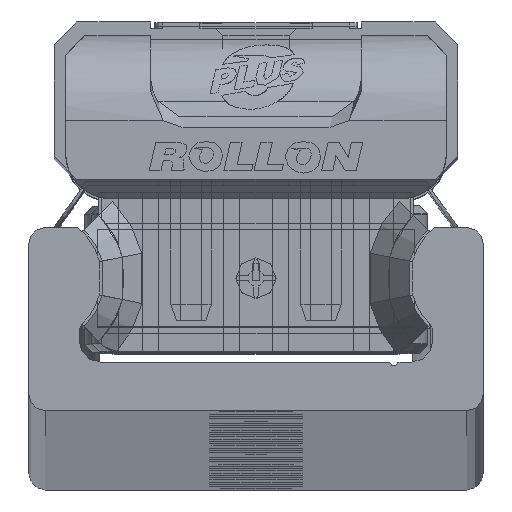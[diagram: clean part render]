
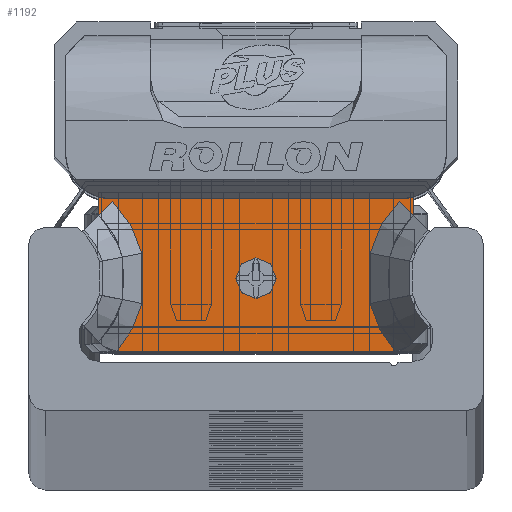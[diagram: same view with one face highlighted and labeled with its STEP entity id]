
A CAD part, top view. The second image highlights one B-rep face of the part: STEP entity #1192.
In plain terms, the highlighted planar face has unit normal (0, 0, 1) as drawn and (0, 0, -1) by its records, which use the part's own axes.
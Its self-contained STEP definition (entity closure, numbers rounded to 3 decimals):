
#1192 = ADVANCED_FACE( '', ( #2888, #2889 ), #2890, .F. );
#2888 = FACE_BOUND( '', #5312, .T. );
#2889 = FACE_OUTER_BOUND( '', #5313, .T. );
#2890 = PLANE( '', #5314 );
#5312 = EDGE_LOOP( '', ( #8734 ) );
#5313 = EDGE_LOOP( '', ( #8735, #8736, #8737, #8738, #8739, #8740, #8741, #8742, #8743, #8744, #8745, #8746, #8747, #8748 ) );
#5314 = AXIS2_PLACEMENT_3D( '', #8749, #8750, #8751 );
#8734 = ORIENTED_EDGE( '', *, *, #13364, .T. );
#8735 = ORIENTED_EDGE( '', *, *, #14055, .F. );
#8736 = ORIENTED_EDGE( '', *, *, #14056, .T. );
#8737 = ORIENTED_EDGE( '', *, *, #13781, .T. );
#8738 = ORIENTED_EDGE( '', *, *, #14057, .T. );
#8739 = ORIENTED_EDGE( '', *, *, #14058, .T. );
#8740 = ORIENTED_EDGE( '', *, *, #13165, .T. );
#8741 = ORIENTED_EDGE( '', *, *, #14059, .T. );
#8742 = ORIENTED_EDGE( '', *, *, #14060, .T. );
#8743 = ORIENTED_EDGE( '', *, *, #14061, .T. );
#8744 = ORIENTED_EDGE( '', *, *, #14062, .T. );
#8745 = ORIENTED_EDGE( '', *, *, #14063, .T. );
#8746 = ORIENTED_EDGE( '', *, *, #14064, .T. );
#8747 = ORIENTED_EDGE( '', *, *, #14065, .T. );
#8748 = ORIENTED_EDGE( '', *, *, #14066, .T. );
#8749 = CARTESIAN_POINT( '', ( 9.7, 4.89, -10.6 ) );
#8750 = DIRECTION( '', ( 0., 0., 1. ) );
#8751 = DIRECTION( '', ( 1., 0., 0. ) );
#13165 = EDGE_CURVE( '', #15471, #15469, #15472, .T. );
#13364 = EDGE_CURVE( '', #15821, #15821, #15822, .T. );
#13781 = EDGE_CURVE( '', #16544, #16548, #16550, .T. );
#14055 = EDGE_CURVE( '', #16999, #15499, #17000, .T. );
#14056 = EDGE_CURVE( '', #16999, #16544, #17001, .T. );
#14057 = EDGE_CURVE( '', #16548, #17002, #17003, .T. );
#14058 = EDGE_CURVE( '', #17002, #15471, #17004, .T. );
#14059 = EDGE_CURVE( '', #15469, #17005, #17006, .T. );
#14060 = EDGE_CURVE( '', #17005, #17007, #17008, .T. );
#14061 = EDGE_CURVE( '', #17007, #17009, #17010, .T. );
#14062 = EDGE_CURVE( '', #17009, #16485, #17011, .T. );
#14063 = EDGE_CURVE( '', #16485, #17012, #17013, .T. );
#14064 = EDGE_CURVE( '', #17012, #17014, #17015, .T. );
#14065 = EDGE_CURVE( '', #17014, #17016, #17017, .T. );
#14066 = EDGE_CURVE( '', #17016, #15499, #17018, .T. );
#15469 = VERTEX_POINT( '', #18903 );
#15471 = VERTEX_POINT( '', #18906 );
#15472 = LINE( '', #18907, #18908 );
#15499 = VERTEX_POINT( '', #18942 );
#15821 = VERTEX_POINT( '', #19338 );
#15822 = CIRCLE( '', #19339, 1.25 );
#16485 = VERTEX_POINT( '', #20328 );
#16544 = VERTEX_POINT( '', #20440 );
#16548 = VERTEX_POINT( '', #20446 );
#16550 = LINE( '', #20449, #20450 );
#16999 = VERTEX_POINT( '', #21093 );
#17000 = LINE( '', #21094, #21095 );
#17001 = CIRCLE( '', #21096, 2.8 );
#17002 = VERTEX_POINT( '', #21097 );
#17003 = CIRCLE( '', #21098, 2.8 );
#17004 = LINE( '', #21099, #21100 );
#17005 = VERTEX_POINT( '', #21101 );
#17006 = B_SPLINE_CURVE_WITH_KNOTS( '', 2, ( #21102, #21103, #21104, #21105, #21106 ), .UNSPECIFIED., .F., .F., ( 3, 2, 3 ), ( 0., 0.5, 1. ), .UNSPECIFIED. );
#17007 = VERTEX_POINT( '', #21107 );
#17008 = B_SPLINE_CURVE_WITH_KNOTS( '', 2, ( #21108, #21109, #21110 ), .UNSPECIFIED., .F., .F., ( 3, 3 ), ( 0., 1. ), .UNSPECIFIED. );
#17009 = VERTEX_POINT( '', #21111 );
#17010 = B_SPLINE_CURVE_WITH_KNOTS( '', 2, ( #21112, #21113, #21114 ), .UNSPECIFIED., .F., .F., ( 3, 3 ), ( 0., 1. ), .UNSPECIFIED. );
#17011 = LINE( '', #21115, #21116 );
#17012 = VERTEX_POINT( '', #21117 );
#17013 = B_SPLINE_CURVE_WITH_KNOTS( '', 2, ( #21118, #21119, #21120 ), .UNSPECIFIED., .F., .F., ( 3, 3 ), ( 0.1, 1. ), .UNSPECIFIED. );
#17014 = VERTEX_POINT( '', #21121 );
#17015 = B_SPLINE_CURVE_WITH_KNOTS( '', 2, ( #21122, #21123, #21124 ), .UNSPECIFIED., .F., .F., ( 3, 3 ), ( 0., 1. ), .UNSPECIFIED. );
#17016 = VERTEX_POINT( '', #21125 );
#17017 = B_SPLINE_CURVE_WITH_KNOTS( '', 2, ( #21126, #21127, #21128 ), .UNSPECIFIED., .F., .F., ( 3, 3 ), ( 0., 1. ), .UNSPECIFIED. );
#17018 = LINE( '', #21129, #21130 );
#18903 = CARTESIAN_POINT( '', ( 8.853, 4.366, -10.6 ) );
#18906 = CARTESIAN_POINT( '', ( 9.7, 3.497, -10.6 ) );
#18907 = CARTESIAN_POINT( '', ( 9.7, 3.501, -10.6 ) );
#18908 = VECTOR( '', #23727, 1000. );
#18942 = CARTESIAN_POINT( '', ( -9.7, 3.494, -10.6 ) );
#19338 = CARTESIAN_POINT( '', ( 1.25, -0.39, -10.6 ) );
#19339 = AXIS2_PLACEMENT_3D( '', #24047, #24048, #24049 );
#20328 = CARTESIAN_POINT( '', ( -8.59, -4.893, -10.6 ) );
#20440 = CARTESIAN_POINT( '', ( -8.95, 4.51, -10.6 ) );
#20446 = CARTESIAN_POINT( '', ( 8.95, 4.51, -10.6 ) );
#20449 = CARTESIAN_POINT( '', ( 9.7, 4.51, -10.6 ) );
#20450 = VECTOR( '', #24648, 1000. );
#21093 = CARTESIAN_POINT( '', ( -9.7, 4.612, -10.6 ) );
#21094 = CARTESIAN_POINT( '', ( -9.7, 4.89, -10.6 ) );
#21095 = VECTOR( '', #25005, 1000. );
#21096 = AXIS2_PLACEMENT_3D( '', #25006, #25007, #25008 );
#21097 = CARTESIAN_POINT( '', ( 9.7, 4.612, -10.6 ) );
#21098 = AXIS2_PLACEMENT_3D( '', #25009, #25010, #25011 );
#21099 = CARTESIAN_POINT( '', ( 9.7, 4.89, -10.6 ) );
#21100 = VECTOR( '', #25012, 1000. );
#21101 = CARTESIAN_POINT( '', ( 7.031, 1.144, -10.6 ) );
#21102 = CARTESIAN_POINT( '', ( 8.853, 4.366, -10.6 ) );
#21103 = CARTESIAN_POINT( '', ( 8.182, 3.708, -10.6 ) );
#21104 = CARTESIAN_POINT( '', ( 7.715, 2.883, -10.6 ) );
#21105 = CARTESIAN_POINT( '', ( 7.249, 2.058, -10.6 ) );
#21106 = CARTESIAN_POINT( '', ( 7.031, 1.144, -10.6 ) );
#21107 = CARTESIAN_POINT( '', ( 7.031, -1.944, -10.6 ) );
#21108 = CARTESIAN_POINT( '', ( 7.031, 1.144, -10.6 ) );
#21109 = CARTESIAN_POINT( '', ( 6.929, -0.4, -10.6 ) );
#21110 = CARTESIAN_POINT( '', ( 7.031, -1.944, -10.6 ) );
#21111 = CARTESIAN_POINT( '', ( 8.59, -4.893, -10.6 ) );
#21112 = CARTESIAN_POINT( '', ( 7.031, -1.944, -10.6 ) );
#21113 = CARTESIAN_POINT( '', ( 7.429, -3.615, -10.6 ) );
#21114 = CARTESIAN_POINT( '', ( 8.588, -4.89, -10.6 ) );
#21115 = CARTESIAN_POINT( '', ( 9.7, -4.89, -10.6 ) );
#21116 = VECTOR( '', #25013, 1000. );
#21117 = CARTESIAN_POINT( '', ( -7.031, -1.944, -10.6 ) );
#21118 = CARTESIAN_POINT( '', ( -8.587, -4.89, -10.6 ) );
#21119 = CARTESIAN_POINT( '', ( -7.432, -3.63, -10.6 ) );
#21120 = CARTESIAN_POINT( '', ( -7.031, -1.944, -10.6 ) );
#21121 = CARTESIAN_POINT( '', ( -7.031, 1.144, -10.6 ) );
#21122 = CARTESIAN_POINT( '', ( -7.031, -1.944, -10.6 ) );
#21123 = CARTESIAN_POINT( '', ( -6.929, -0.4, -10.6 ) );
#21124 = CARTESIAN_POINT( '', ( -7.031, 1.144, -10.6 ) );
#21125 = CARTESIAN_POINT( '', ( -8.853, 4.366, -10.6 ) );
#21126 = CARTESIAN_POINT( '', ( -7.031, 1.144, -10.6 ) );
#21127 = CARTESIAN_POINT( '', ( -7.477, 3.018, -10.6 ) );
#21128 = CARTESIAN_POINT( '', ( -8.853, 4.366, -10.6 ) );
#21129 = CARTESIAN_POINT( '', ( -8.853, 4.366, -10.6 ) );
#21130 = VECTOR( '', #25014, 1000. );
#23727 = DIRECTION( '', ( -0.7, 0.714, 0. ) );
#24047 = CARTESIAN_POINT( '', ( 0., -0.39, -10.6 ) );
#24048 = DIRECTION( '', ( 0., 0., 1. ) );
#24049 = DIRECTION( '', ( 1., 0., 0. ) );
#24648 = DIRECTION( '', ( 1., 0., 0. ) );
#25005 = DIRECTION( '', ( 0., -1., 0. ) );
#25006 = CARTESIAN_POINT( '', ( -8.95, 7.31, -10.6 ) );
#25007 = DIRECTION( '', ( 0., 0., 1. ) );
#25008 = DIRECTION( '', ( 1., 0., 0. ) );
#25009 = CARTESIAN_POINT( '', ( 8.95, 7.31, -10.6 ) );
#25010 = DIRECTION( '', ( 0., 0., 1. ) );
#25011 = DIRECTION( '', ( 1., 0., 0. ) );
#25012 = DIRECTION( '', ( 0., -1., 0. ) );
#25013 = DIRECTION( '', ( -1., 0., 0. ) );
#25014 = DIRECTION( '', ( -0.7, -0.714, 0. ) );
